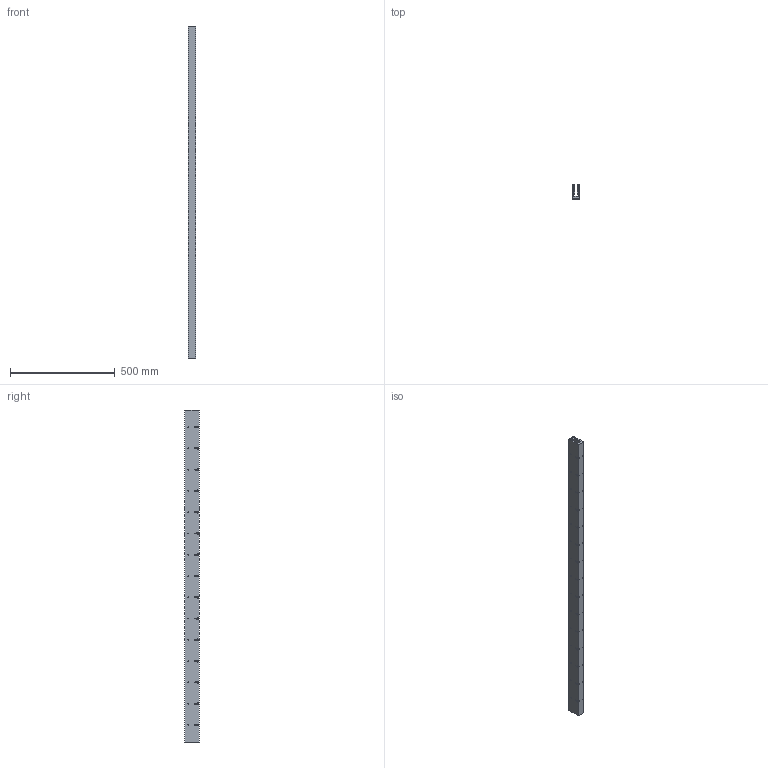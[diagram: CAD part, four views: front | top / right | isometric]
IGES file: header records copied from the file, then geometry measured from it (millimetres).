
Global section: file name: No Iges File Name specified; native system: Autodesk Inventor 2009; preprocessor: AutoDesk Inventor Iges Exporter R2009; author: je17857; date: 20091116.111804; units: inch
Bounding box: 34.29 x 67.31 x 1584.96 mm (x, y, z)
Volume: 2370673.9 mm3; surface area: 595036.8 mm2
Topology: 1 solids, 1 shells, 790 faces, 1902 edges, 1268 vertices
Faces by surface type: plane 550, bspline 240
